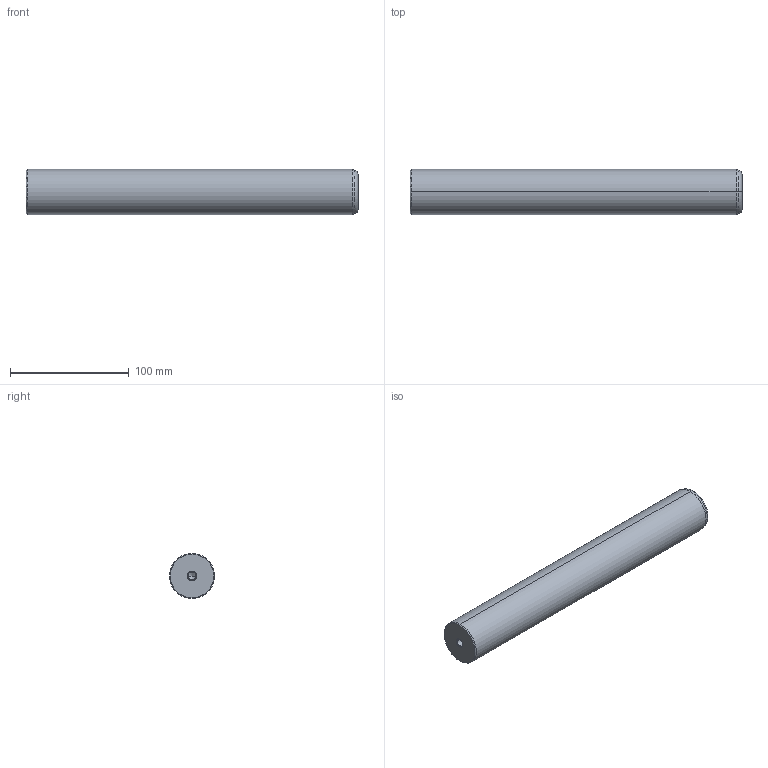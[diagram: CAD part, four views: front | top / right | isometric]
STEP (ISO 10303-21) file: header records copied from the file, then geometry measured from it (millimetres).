
FILE_DESCRIPTION(('CATIA V5 STEP Exchange'),'2;1');
FILE_NAME('C:\Users\Utente\Desktop\IO LAVORO\3D X SITO CF\X SITO\720\720-38x280.stp','2021-01-01T12:03:59+00:00',('none'),('none'),'CATIA Version 5 Release 20 GA (IN-10)','CATIA V5 STEP AP203','none');
FILE_SCHEMA(('CONFIG_CONTROL_DESIGN'));
Length unit declared in the file: millimetre
Products named in the file (1): 720-38x280
Bounding box: 280 x 38 x 38 mm (x, y, z)
Volume: 315212.6 mm3; surface area: 36381.3 mm2
Topology: 1 solids, 1 shells, 22 faces, 56 edges, 34 vertices
Faces by surface type: cone 12, cylinder 6, plane 2, torus 2
Entity records: 755 total; most frequent: CARTESIAN_POINT 216, ORIENTED_EDGE 104, DIRECTION 89, EDGE_CURVE 52, AXIS2_PLACEMENT_3D 50, VERTEX_POINT 34, CIRCLE 27, EDGE_LOOP 24
